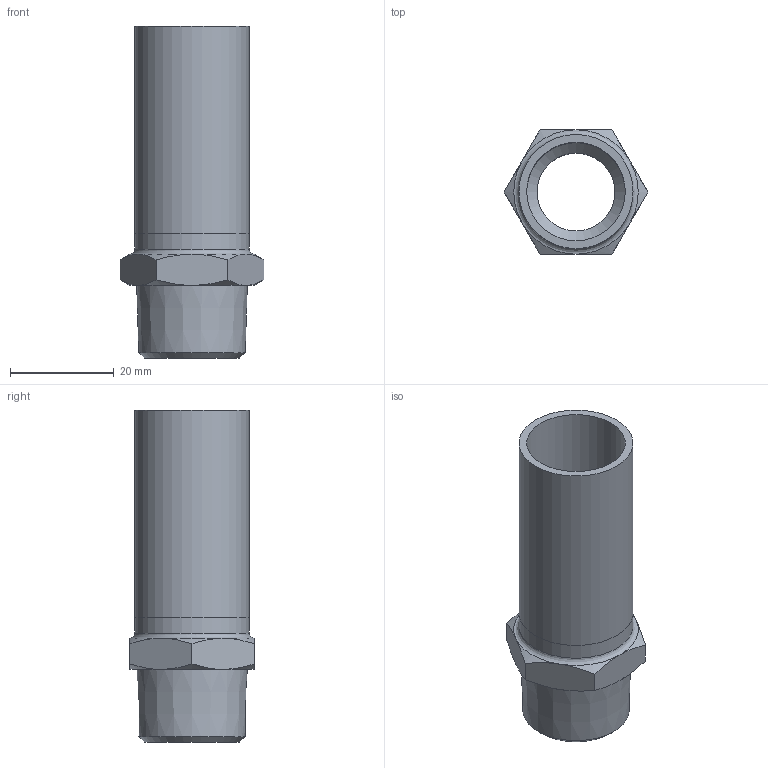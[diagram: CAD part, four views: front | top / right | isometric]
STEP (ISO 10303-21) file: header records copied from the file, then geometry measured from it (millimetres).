
FILE_DESCRIPTION((''),'2;1');
FILE_NAME('G:\Nirosan-Schmiedefeld\Technics\CAD\001 Serie 9.000\022\69280G2212H(1).stp','2017-06-22T14:37:29',('herberg'),(''),'Autodesk Inventor 2009','Autodesk Inventor 2009','');
FILE_SCHEMA(('AUTOMOTIVE_DESIGN { 1 0 10303 214 1 1 1 1 }'));
Length unit declared in the file: millimetre
Products named in the file (3): 69280G2212H(1); 69FXE22P(0); AG2212(0)
Assembly tree (2 placements, depth 2):
  69280G2212H(1)
    69FXE22P(0)
    AG2212(0)
Bounding box: 27.71 x 24 x 64 mm (x, y, z)
Volume: 8035.8 mm3; surface area: 8710.1 mm2
Topology: 2 solids, 2 shells, 32 faces, 67 edges, 40 vertices
Faces by surface type: cone 14, plane 11, bspline 4, cylinder 3
Full cylindrical faces by diameter (mm): 19 x1, 22 x2
Entity records: 929 total; most frequent: CARTESIAN_POINT 274, DIRECTION 124, ORIENTED_EDGE 112, AXIS2_PLACEMENT_3D 59, EDGE_CURVE 56, EDGE_LOOP 46, VERTEX_POINT 38, FACE_OUTER_BOUND 32
